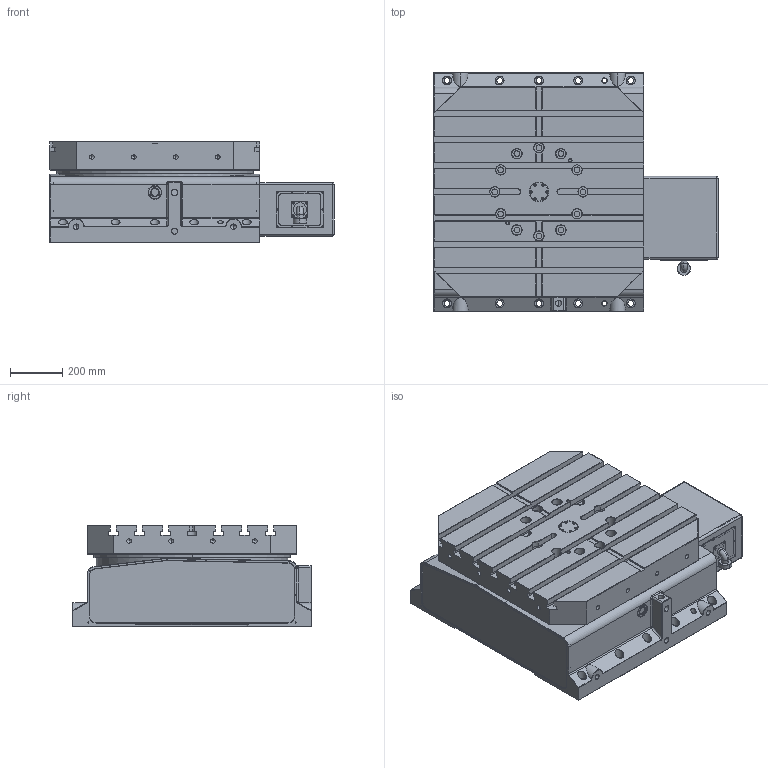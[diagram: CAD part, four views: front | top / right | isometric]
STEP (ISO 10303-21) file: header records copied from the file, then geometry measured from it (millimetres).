
FILE_DESCRIPTION (( 'STEP AP214' ), '1' );
FILE_NAME ('WDS-H800 喜渡芞 REV.03.STEP', '2019-09-10T02:53:51', ( 'QING' ), ( '' ), 'SwSTEP 2.0', 'SolidWorks 2012', '' );
FILE_SCHEMA (( 'AUTOMOTIVE_DESIGN' ));
Length unit declared in the file: millimetre
Products named in the file (12): 嫖掑喜躇猾裔-H800; 嫖掑喜嘐隅釱-H800; 嫖掑喜HA-D200; 嫖掑喜隅弇粣-H800; 盄奪諉芛-喜渡芞; ﾏﾟﾀﾂﾃﾜｷ篋ﾇ-H630-ｳﾟｴ醢ｼ; 蚐梓-C170-喜渡芞; 萇儂眊极-H800-喜渡芞; 工作台封盖-H800-尺寸图; 馱釬怢-H800-喜渡芞; 翋眊极-H800-喜渡芞; WDS-H800 喜渡芞 REV.03
Assembly tree (11 placements, depth 2):
  WDS-H800 喜渡芞 REV.03
    翋眊极-H800-喜渡芞
    馱釬怢-H800-喜渡芞
    工作台封盖-H800-尺寸图
    萇儂眊极-H800-喜渡芞
    蚐梓-C170-喜渡芞
    ﾏﾟﾀﾂﾃﾜｷ篋ﾇ-H630-ｳﾟｴ醢ｼ
    盄奪諉芛-喜渡芞
    嫖掑喜隅弇粣-H800
    嫖掑喜HA-D200
    嫖掑喜嘐隅釱-H800
    嫖掑喜躇猾裔-H800
Bounding box: 1083 x 910 x 385 mm (x, y, z)
Volume: 205183135.9 mm3; surface area: 7180548.4 mm2
Topology: 11 solids, 43 shells, 1936 faces, 4655 edges, 2784 vertices
Faces by surface type: cylinder 825, plane 578, cone 410, torus 117, bspline 4, sphere 2
Entity records: 60623 total; most frequent: CARTESIAN_POINT 11149, DIRECTION 10284, ORIENTED_EDGE 8966, EDGE_CURVE 4483, AXIS2_PLACEMENT_3D 4020, VERTEX_POINT 2784, EDGE_LOOP 2343, LINE 2244
